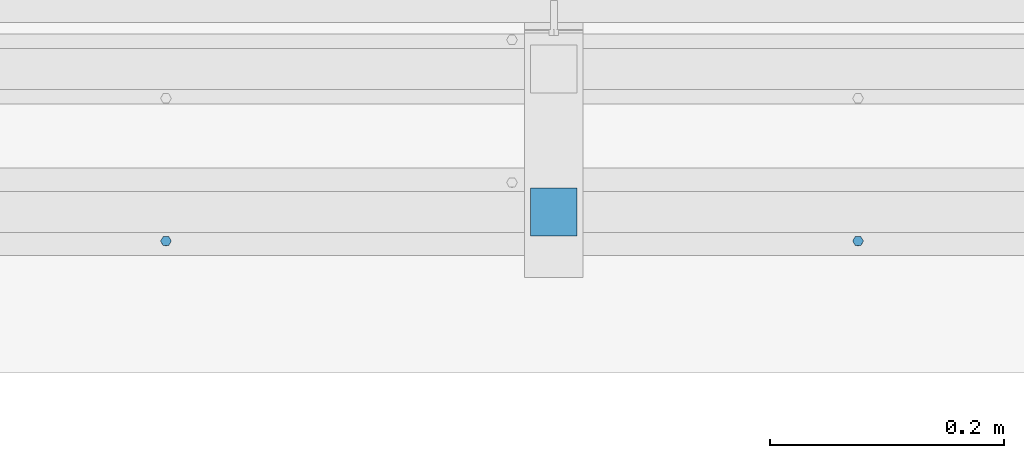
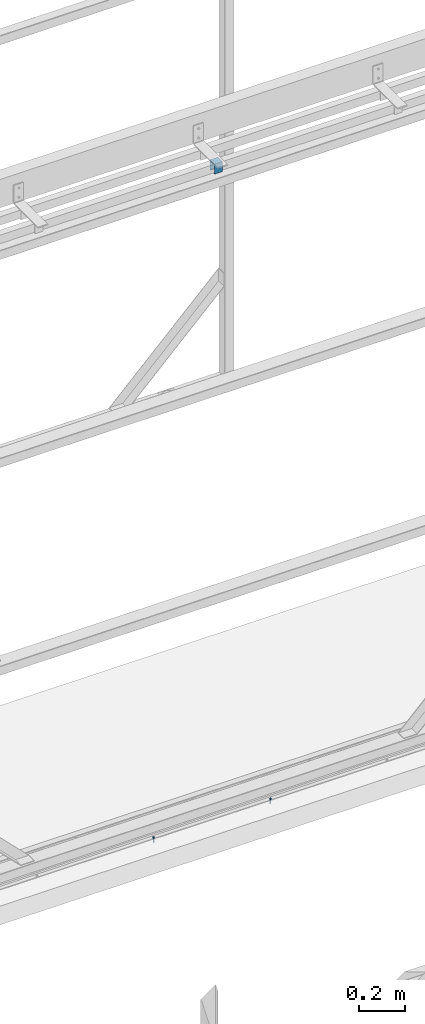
# One storey, part 48 of 91: 2 mechanical fasteners, 1 discrete accessory, 2 elements without a shape of their own.
"""IFC2X3 building model written with IfcOpenShell, lengths in millimetres."""

import ifcopenshell
import ifcopenshell.guid

model = None  # the IFC model being written
_history = None  # IfcOwnerHistory: only IFC2X3 demands one
_inside = {}  # id of a spatial element -> (the spatial element, [elements in it])
_under = {}  # id of a project, library or spatial element -> (it, [spatial elements below it])
_declared = {}  # id of a project -> (the project, [libraries it declares])
_typed = {}  # id of a type object -> (the type object, [elements of that type])
_made_of = {}  # id of a material, layer set ... -> (it, [elements and type objects made of it])


def new_model(schema):
    """Start an empty IFC model of exactly this schema.

    Asked for "IFC4X3", IfcOpenShell would pick the latest addendum, in which some entities
    have other attributes; the version numbers below select the first issue.
    IFC2X3 requires an IfcOwnerHistory on every rooted entity: one is made here for all.
    """
    global model, _history
    if schema == "IFC4X3":
        model = ifcopenshell.file(schema_version=(4, 3, 0, 0))
    else:
        model = ifcopenshell.file(schema=schema)
    _inside.clear()
    _under.clear()
    _declared.clear()
    _typed.clear()
    _made_of.clear()
    _history = None
    if model.schema == "IFC2X3":
        org = make("IfcOrganization", Name="unknown")
        user = make(
            "IfcPersonAndOrganization",
            ThePerson=make("IfcPerson", FamilyName="unknown"),
            TheOrganization=org,
        )
        app = make(
            "IfcApplication",
            ApplicationDeveloper=org,
            Version="unknown",
            ApplicationFullName="unknown",
            ApplicationIdentifier="unknown",
        )
        _history = make(
            "IfcOwnerHistory",
            OwningUser=user,
            OwningApplication=app,
            ChangeAction="ADDED",
            CreationDate=0,
        )
    return model


def make(cls, **values):
    """One entity of the class cls with the attributes given. An attribute that is None is left unset."""
    return model.create_entity(
        cls, **{name: value for name, value in values.items() if value is not None}
    )


def rooted(cls, **values):
    """An entity with a GlobalId (a new one), such as an element, a storey or a relation."""
    return make(cls, GlobalId=ifcopenshell.guid.new(), OwnerHistory=_history, **values)


def si_unit(unit_type, name, prefix=None):
    """IfcSIUnit, for example si_unit("LENGTHUNIT", "METRE", prefix="MILLI")."""
    return make("IfcSIUnit", UnitType=unit_type, Prefix=prefix, Name=name)


def assignment(units):
    """IfcUnitAssignment: the units of a project."""
    return None if units is None else make("IfcUnitAssignment", Units=units)


def point(xyz):
    """IfcCartesianPoint."""
    return None if xyz is None else make("IfcCartesianPoint", Coordinates=xyz)


def direction(xyz):
    """IfcDirection."""
    return None if xyz is None else make("IfcDirection", DirectionRatios=xyz)


def frame(location, z_axis=None, x_axis=None):
    """IfcAxis2Placement3D, a coordinate frame: its origin and axes. An axis left out is left unset."""
    return make(
        "IfcAxis2Placement3D",
        Location=point(location),
        Axis=direction(z_axis),
        RefDirection=direction(x_axis),
    )


def frame_2d(location, x_axis=None):
    """IfcAxis2Placement2D, a coordinate frame in the plane: its origin and x axis."""
    return make(
        "IfcAxis2Placement2D", Location=point(location), RefDirection=direction(x_axis)
    )


def origin_with_axes():
    """The frame at (0, 0, 0) with the z axis (0, 0, 1) and the x axis (1, 0, 0) written out."""
    return frame((0.0, 0.0, 0.0), z_axis=(0.0, 0.0, 1.0), x_axis=(1.0, 0.0, 0.0))


def origin_2d_with_axis():
    """The frame at (0, 0) in the plane with the x axis (1, 0) written out."""
    return frame_2d((0.0, 0.0), x_axis=(1.0, 0.0))


def place(relative_to, where):
    """IfcLocalPlacement: puts the frame where relative to a parent placement (None: the world)."""
    return make(
        "IfcLocalPlacement", PlacementRelTo=relative_to, RelativePlacement=where
    )


def context(
    kind, dimensions, precision=None, world=None, true_north=None, identifier=None
):
    """IfcGeometricRepresentationContext, for example the 3D "Model" context."""
    return make(
        "IfcGeometricRepresentationContext",
        ContextIdentifier=identifier,
        ContextType=kind,
        CoordinateSpaceDimension=dimensions,
        Precision=precision,
        WorldCoordinateSystem=world,
        TrueNorth=true_north,
    )


def subcontext(parent, identifier, kind, view, scale=None):
    """IfcGeometricRepresentationSubContext, for example "Body" below "Model"."""
    return make(
        "IfcGeometricRepresentationSubContext",
        ContextIdentifier=identifier,
        ContextType=kind,
        ParentContext=parent,
        TargetScale=scale,
        TargetView=view,
    )


def project(units=None, contexts=None):
    """IfcProject with its units and contexts."""
    return rooted(
        "IfcProject",
        Name="project",
        RepresentationContexts=contexts,
        UnitsInContext=assignment(units),
    )


def spatial(cls, under=None, at=None, **own):
    """A site, building, storey or space (cls), placed at a placement, below another one or the project."""
    s = rooted(cls, ObjectPlacement=at, **own)
    if under is not None:
        _under.setdefault(under.id(), (under, []))[1].append(s)
    return s


def polyline(points):
    """IfcPolyline through the points."""
    return make("IfcPolyline", Points=[point(p) for p in points])


def profile(cls, at=None, kind="AREA", **sizes):
    """A parametric profile (cls). Its sizes go by their IFC names, for example OverallWidth=200.0."""
    return make(cls, ProfileType=kind, Position=at, **sizes)


def circle(**sizes):
    """IfcCircleProfileDef."""
    return profile("IfcCircleProfileDef", **sizes)


def c_section(**sizes):
    """IfcCShapeProfileDef."""
    return profile("IfcCShapeProfileDef", **sizes)


def outline(outer, holes=None, kind="AREA"):
    """IfcArbitraryClosedProfileDef: a profile drawn as a closed curve; with holes, ...WithVoids."""
    if holes is None:
        return make("IfcArbitraryClosedProfileDef", ProfileType=kind, OuterCurve=outer)
    return make(
        "IfcArbitraryProfileDefWithVoids",
        ProfileType=kind,
        OuterCurve=outer,
        InnerCurves=holes,
    )


def extrude(swept, where, along, depth):
    """IfcExtrudedAreaSolid: the profile swept, set in the frame where, extruded along a direction by depth."""
    return make(
        "IfcExtrudedAreaSolid",
        SweptArea=swept,
        Position=where,
        ExtrudedDirection=direction(along),
        Depth=depth,
    )


def shape(context_of_items, identifier, shape_type, items):
    """IfcShapeRepresentation: the items that make up one representation, for example the "Body"."""
    return make(
        "IfcShapeRepresentation",
        ContextOfItems=context_of_items,
        RepresentationIdentifier=identifier,
        RepresentationType=shape_type,
        Items=items,
    )


def source(mapping_origin, context_of_items, identifier, shape_type, items):
    """IfcRepresentationMap: a shape defined once, which mapped items show again and again."""
    return make(
        "IfcRepresentationMap",
        MappingOrigin=mapping_origin,
        MappedRepresentation=shape(context_of_items, identifier, shape_type, items),
    )


def transform(
    local_origin,
    x_axis=None,
    y_axis=None,
    z_axis=None,
    scale=None,
    scale2=None,
    scale3=None,
    uniform=True,
):
    """IfcCartesianTransformationOperator3D, or its non-uniform kind. x_axis, y_axis, z_axis: its Axis1, 2, 3."""
    if uniform:
        return make(
            "IfcCartesianTransformationOperator3D",
            Axis1=direction(x_axis),
            Axis2=direction(y_axis),
            LocalOrigin=point(local_origin),
            Scale=scale,
            Axis3=direction(z_axis),
        )
    return make(
        "IfcCartesianTransformationOperator3DnonUniform",
        Axis1=direction(x_axis),
        Axis2=direction(y_axis),
        LocalOrigin=point(local_origin),
        Scale=scale,
        Axis3=direction(z_axis),
        Scale2=scale2,
        Scale3=scale3,
    )


def mapped(mapping_source, mapping_target):
    """IfcMappedItem: shows the shape of a source again, moved by a transform."""
    return make(
        "IfcMappedItem", MappingSource=mapping_source, MappingTarget=mapping_target
    )


def material(Name=None, Category=None):
    """IfcMaterial."""
    return make("IfcMaterial", Name=Name, Category=Category)


def made_of(thing, what):
    """Note that an element or type object is made of a material, layer set ...; save() writes the relation."""
    if what is not None:
        _made_of.setdefault(what.id(), (what, []))[1].append(thing)
    return thing


def type_object(cls, material=None, **own):
    """A type object (cls), such as IfcWallType, which elements share."""
    return made_of(rooted(cls, **own), material)


def element(
    cls,
    number,
    at=None,
    inside=None,
    cuts=None,
    type_object=None,
    material=None,
    context=None,
    identifier="Body",
    shape_type=None,
    held_by="IfcProductDefinitionShape",
    body=None,
    shapes=None,
    **own,
):
    """One element of the class cls, such as IfcWall. Its Tag is "e" and its number.

    at: its placement. inside: the storey or other place that contains it. cuts: it is an
    opening in that element (IfcRelVoidsElement). A single representation is given by context,
    identifier, shape_type and body (its items); several are given by shapes. held_by: the class
    of the entity that holds the representations. save() writes the other relations.
    """
    e = rooted(cls, Tag="e%d" % number, ObjectPlacement=at, **own)
    if body is not None:
        shapes = [shape(context, identifier, shape_type, body)]
    if shapes is not None:
        e.Representation = make(held_by, Representations=shapes)
    if inside is not None:
        _inside.setdefault(inside.id(), (inside, []))[1].append(e)
    if cuts is not None:
        rooted(
            "IfcRelVoidsElement", RelatingBuildingElement=cuts, RelatedOpeningElement=e
        )
    if type_object is not None:
        _typed.setdefault(type_object.id(), (type_object, []))[1].append(e)
    return made_of(e, material)


def aggregate(whole, parts):
    """IfcRelAggregates: a whole, such as a stair, and the parts it consists of."""
    return rooted("IfcRelAggregates", RelatingObject=whole, RelatedObjects=parts)


def save(model, path):
    """Write the relations noted so far, then the file.

    IfcRelAggregates (storeys below a building ...), IfcRelContainedInSpatialStructure (elements
    in a storey), IfcRelDefinesByType, IfcRelAssociatesMaterial and IfcRelDeclares: one each for
    every whole, place, type object, material and project.
    """
    for whole, parts in _under.values():
        aggregate(whole, parts)
    for where, things in _inside.values():
        rooted(
            "IfcRelContainedInSpatialStructure",
            RelatedElements=things,
            RelatingStructure=where,
        )
    for kind, things in _typed.values():
        rooted("IfcRelDefinesByType", RelatedObjects=things, RelatingType=kind)
    for what, things in _made_of.values():
        rooted("IfcRelAssociatesMaterial", RelatedObjects=things, RelatingMaterial=what)
    for by, libraries in _declared.values():
        rooted("IfcRelDeclares", RelatingContext=by, RelatedDefinitions=libraries)
    model.write(path)


model = new_model("IFC2X3")

# Units and contexts
model_context = context("Model", 3, precision=1e-05, world=origin_with_axes())
body_context = subcontext(model_context, "Body", "Model", "MODEL_VIEW")
ifc_project = project(units=[si_unit("LENGTHUNIT", "METRE", prefix="MILLI"), si_unit("AREAUNIT", "SQUARE_METRE"), si_unit("VOLUMEUNIT", "CUBIC_METRE"), si_unit("MASSUNIT", "GRAM", prefix="KILO"), si_unit("TIMEUNIT", "SECOND"), si_unit("PLANEANGLEUNIT", "RADIAN"), si_unit("SOLIDANGLEUNIT", "STERADIAN"), si_unit("THERMODYNAMICTEMPERATUREUNIT", "DEGREE_CELSIUS"), si_unit("LUMINOUSINTENSITYUNIT", "LUMEN")], contexts=[model_context])

# Site, building, storey
site_placement = place(None, origin_with_axes())
site = spatial("IfcSite", under=ifc_project, at=site_placement, Name="Undefined", CompositionType="ELEMENT")
building_placement = place(site_placement, origin_with_axes())
building = spatial("IfcBuilding", under=site, at=building_placement, Name="Undefined", CompositionType="ELEMENT")
storey_placement = place(building_placement, origin_with_axes())
storey = spatial("IfcBuildingStorey", under=building, at=storey_placement, Name="Undefined", CompositionType="ELEMENT", Elevation=0.0)

# Assembly, mechanical fasteners
assembly_1_placement = place(storey_placement, origin_with_axes())
assembly_1 = element("IfcElementAssembly", 1, at=assembly_1_placement, inside=storey, Name="DOOR TRACK", AssemblyPlace="NOTDEFINED", PredefinedType="RIGID_FRAME")
ifc_material_1 = material(Name="TEK_10TPII")
discrete_accessory_type_1 = type_object("IfcDiscreteAccessoryType", Name="Bolt assembly")
shared_shape = source(origin_with_axes(), body_context, "Body", "SweptSolid", [
    extrude(circle(Radius=4.07999992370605, at=origin_2d_with_axis()), frame((0.0, 0.0, 0.0), z_axis=(0.0, 1.0, 0.0), x_axis=(1.0, 0.0, 0.0)), (0.0, 0.0, 1.0), 3.1),
    extrude(outline(polyline([(4.61880215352, 0.0), (2.30940107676, 4.00000000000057), (-2.30940107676, 4.00000000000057), (-4.61880215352, 0.0), (-2.30940107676, -4.00000000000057), (2.30940107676, -4.00000000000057), (4.61880215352, 0.0)])), frame((0.0, -5.0, 0.0), z_axis=(0.0, 1.0, 0.0), x_axis=(1.0, 0.0, 0.0)), (0.0, 0.0, 1.0), 5.0),
    extrude(circle(Radius=3.07999992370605, at=origin_2d_with_axis()), frame((0.0, 0.0, 0.0), z_axis=(0.0, 1.0, 0.0), x_axis=(1.0, 0.0, 0.0)), (0.0, 0.0, 1.0), 25.0),
    extrude(circle(Radius=3.0, at=origin_2d_with_axis()), frame((0.0, 3.0, 0.0), z_axis=(0.0, 1.0, 0.0), x_axis=(1.0, 0.0, 0.0)), (0.0, 0.0, 1.0), 0.1),
    extrude(outline(polyline([(3.46410161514, 0.0), (1.73205080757, 3.00000000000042), (-1.73205080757, 3.00000000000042), (-3.46410161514, 0.0), (-1.73205080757, -3.00000000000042), (1.73205080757, -3.00000000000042), (3.46410161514, 0.0)])), frame((0.0, 3.10000000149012, 0.0), z_axis=(0.0, 1.0, 0.0), x_axis=(1.0, 0.0, 0.0)), (0.0, 0.0, 1.0), 0.1),
])
mechanical_fastener_1_placement = place(assembly_1_placement, frame((-111979.44, 87565.151953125, -54.0), z_axis=(0.0, 1.0, 0.0), x_axis=(1.0, 0.0, 0.0)))
mechanical_fastener_1 = element("IfcMechanicalFastener", 2, at=mechanical_fastener_1_placement, type_object=discrete_accessory_type_1, material=ifc_material_1, Name="Bolt assembly", NominalDiameter=6.15999984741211, NominalLength=25.0, context=body_context, shape_type="MappedRepresentation", body=[
    mapped(shared_shape, transform((0.0, 0.0, 0.0))),
])
mechanical_fastener_2_placement = place(assembly_1_placement, frame((-112571.24, 87565.151953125, -54.0), z_axis=(0.0, 1.0, 0.0), x_axis=(1.0, 0.0, 0.0)))
mechanical_fastener_2 = element("IfcMechanicalFastener", 3, at=mechanical_fastener_2_placement, type_object=discrete_accessory_type_1, material=ifc_material_1, Name="Bolt assembly", NominalDiameter=6.15999984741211, NominalLength=25.0, context=body_context, shape_type="MappedRepresentation", body=[
    mapped(shared_shape, transform((0.0, 0.0, 0.0))),
])
aggregate(assembly_1, [mechanical_fastener_1, mechanical_fastener_2])

# Assembly, discrete accessory
assembly_2_placement = place(storey_placement, origin_with_axes())
assembly_2 = element("IfcElementAssembly", 4, at=assembly_2_placement, inside=storey, Name="DOOR BRACKET", AssemblyPlace="NOTDEFINED", PredefinedType="RIGID_FRAME")
ifc_material_2 = material(Name="STEEL/250")
discrete_accessory_type_2 = type_object("IfcDiscreteAccessoryType", Name="SLIDING DOOR BRACKET")
discrete_accessory_placement = place(assembly_2_placement, frame((-112259.59, 87590.15, 3417.5), z_axis=(0.0, -1.0, 0.0), x_axis=(1.0, 0.0, 0.0)))
discrete_accessory = element("IfcDiscreteAccessory", 5, at=discrete_accessory_placement, type_object=discrete_accessory_type_2, material=ifc_material_2, Name="SLIDING DOOR BRACKET", ObjectType="CC41-1.5-7-53", context=body_context, shape_type="SweptSolid", body=[
    extrude(c_section(Depth=41.0, Width=53.0, WallThickness=1.5, Girth=7.0, at=origin_2d_with_axis()), frame((40.0, 0.0, 0.0), z_axis=(-1.0, 0.0, 0.0), x_axis=(0.0, -1.0, 0.0)), (0.0, 0.0, 1.0), 40.0),
])
aggregate(assembly_2, [discrete_accessory])

save(model, "model.ifc")
